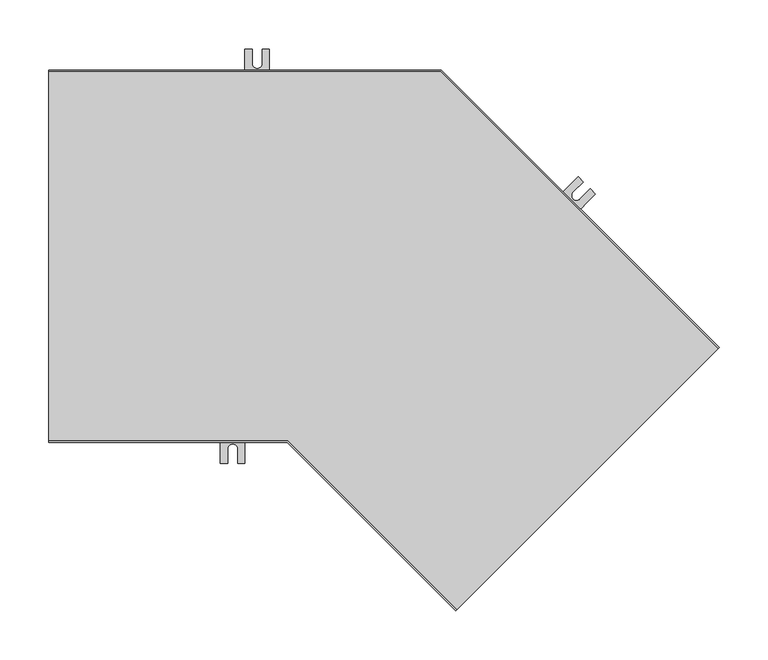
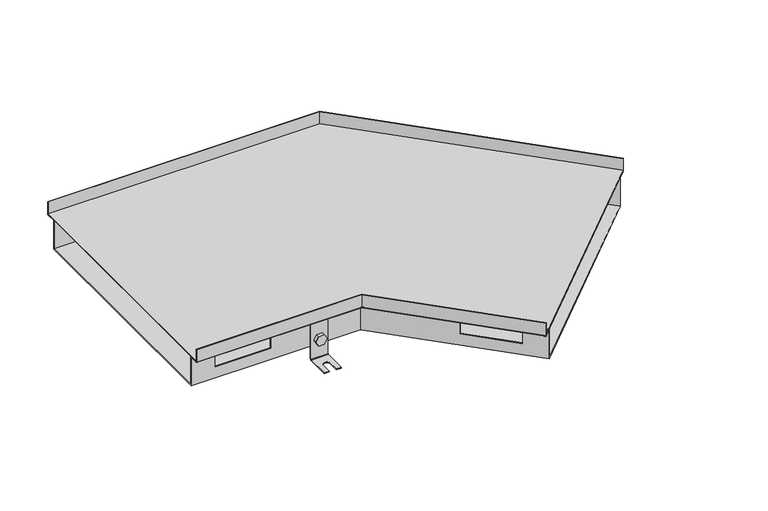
"""IFC4 building model written with IfcOpenShell, lengths in millimetres: proxy geometry, TECHNO_Угловой элемент_KVU : 380_065_135°."""

import ifcopenshell
import ifcopenshell.guid

model = None  # the IFC model being written
_history = None  # IfcOwnerHistory: only IFC2X3 demands one
_inside = {}  # id of a spatial element -> (the spatial element, [elements in it])
_under = {}  # id of a project, library or spatial element -> (it, [spatial elements below it])
_declared = {}  # id of a project -> (the project, [libraries it declares])
_typed = {}  # id of a type object -> (the type object, [elements of that type])
_made_of = {}  # id of a material, layer set ... -> (it, [elements and type objects made of it])


def new_model(schema):
    """Start an empty IFC model of exactly this schema.

    Asked for "IFC4X3", IfcOpenShell would pick the latest addendum, in which some entities
    have other attributes; the version numbers below select the first issue.
    IFC2X3 requires an IfcOwnerHistory on every rooted entity: one is made here for all.
    """
    global model, _history
    if schema == "IFC4X3":
        model = ifcopenshell.file(schema_version=(4, 3, 0, 0))
    else:
        model = ifcopenshell.file(schema=schema)
    _inside.clear()
    _under.clear()
    _declared.clear()
    _typed.clear()
    _made_of.clear()
    _history = None
    if model.schema == "IFC2X3":
        org = make("IfcOrganization", Name="unknown")
        user = make(
            "IfcPersonAndOrganization",
            ThePerson=make("IfcPerson", FamilyName="unknown"),
            TheOrganization=org,
        )
        app = make(
            "IfcApplication",
            ApplicationDeveloper=org,
            Version="unknown",
            ApplicationFullName="unknown",
            ApplicationIdentifier="unknown",
        )
        _history = make(
            "IfcOwnerHistory",
            OwningUser=user,
            OwningApplication=app,
            ChangeAction="ADDED",
            CreationDate=0,
        )
    return model


def make(cls, **values):
    """One entity of the class cls with the attributes given. An attribute that is None is left unset."""
    return model.create_entity(
        cls, **{name: value for name, value in values.items() if value is not None}
    )


def rooted(cls, **values):
    """An entity with a GlobalId (a new one), such as an element, a storey or a relation."""
    return make(cls, GlobalId=ifcopenshell.guid.new(), OwnerHistory=_history, **values)


def si_unit(unit_type, name, prefix=None):
    """IfcSIUnit, for example si_unit("LENGTHUNIT", "METRE", prefix="MILLI")."""
    return make("IfcSIUnit", UnitType=unit_type, Prefix=prefix, Name=name)


def assignment(units):
    """IfcUnitAssignment: the units of a project."""
    return None if units is None else make("IfcUnitAssignment", Units=units)


def point(xyz):
    """IfcCartesianPoint."""
    return None if xyz is None else make("IfcCartesianPoint", Coordinates=xyz)


def direction(xyz):
    """IfcDirection."""
    return None if xyz is None else make("IfcDirection", DirectionRatios=xyz)


def frame(location, z_axis=None, x_axis=None):
    """IfcAxis2Placement3D, a coordinate frame: its origin and axes. An axis left out is left unset."""
    return make(
        "IfcAxis2Placement3D",
        Location=point(location),
        Axis=direction(z_axis),
        RefDirection=direction(x_axis),
    )


def frame_2d(location, x_axis=None):
    """IfcAxis2Placement2D, a coordinate frame in the plane: its origin and x axis."""
    return make(
        "IfcAxis2Placement2D", Location=point(location), RefDirection=direction(x_axis)
    )


def origin():
    """The frame at (0, 0, 0) with its axes left unset."""
    return frame((0.0, 0.0, 0.0))


def place(relative_to, where):
    """IfcLocalPlacement: puts the frame where relative to a parent placement (None: the world)."""
    return make(
        "IfcLocalPlacement", PlacementRelTo=relative_to, RelativePlacement=where
    )


def context(
    kind, dimensions, precision=None, world=None, true_north=None, identifier=None
):
    """IfcGeometricRepresentationContext, for example the 3D "Model" context."""
    return make(
        "IfcGeometricRepresentationContext",
        ContextIdentifier=identifier,
        ContextType=kind,
        CoordinateSpaceDimension=dimensions,
        Precision=precision,
        WorldCoordinateSystem=world,
        TrueNorth=true_north,
    )


def project(units=None, contexts=None):
    """IfcProject with its units and contexts."""
    return rooted(
        "IfcProject",
        Name="project",
        RepresentationContexts=contexts,
        UnitsInContext=assignment(units),
    )


def spatial(cls, under=None, at=None, **own):
    """A site, building, storey or space (cls), placed at a placement, below another one or the project."""
    s = rooted(cls, ObjectPlacement=at, **own)
    if under is not None:
        _under.setdefault(under.id(), (under, []))[1].append(s)
    return s


def polyline(points):
    """IfcPolyline through the points."""
    return make("IfcPolyline", Points=[point(p) for p in points])


def circle_curve(where, radius):
    """IfcCircle in the frame where."""
    return make("IfcCircle", Position=where, Radius=radius)


def ellipse_curve(where, semi_axis1, semi_axis2):
    """IfcEllipse in the frame where."""
    return make(
        "IfcEllipse", Position=where, SemiAxis1=semi_axis1, SemiAxis2=semi_axis2
    )


def trimmed(basis, trim1, trim2, sense, master):
    """IfcTrimmedCurve: the piece of a basis curve between two trims."""
    return make(
        "IfcTrimmedCurve",
        BasisCurve=basis,
        Trim1=trim1,
        Trim2=trim2,
        SenseAgreement=sense,
        MasterRepresentation=master,
    )


def segment(curve, same_sense, transition):
    """IfcCompositeCurveSegment."""
    return make(
        "IfcCompositeCurveSegment",
        Transition=transition,
        SameSense=same_sense,
        ParentCurve=curve,
    )


def composite_curve(segments, self_intersect=None):
    """IfcCompositeCurve: segments joined end to end."""
    return make("IfcCompositeCurve", Segments=segments, SelfIntersect=self_intersect)


def outline(outer, holes=None, kind="AREA"):
    """IfcArbitraryClosedProfileDef: a profile drawn as a closed curve; with holes, ...WithVoids."""
    if holes is None:
        return make("IfcArbitraryClosedProfileDef", ProfileType=kind, OuterCurve=outer)
    return make(
        "IfcArbitraryProfileDefWithVoids",
        ProfileType=kind,
        OuterCurve=outer,
        InnerCurves=holes,
    )


def extrude(swept, where, along, depth):
    """IfcExtrudedAreaSolid: the profile swept, set in the frame where, extruded along a direction by depth."""
    return make(
        "IfcExtrudedAreaSolid",
        SweptArea=swept,
        Position=where,
        ExtrudedDirection=direction(along),
        Depth=depth,
    )


def shape(context_of_items, identifier, shape_type, items):
    """IfcShapeRepresentation: the items that make up one representation, for example the "Body"."""
    return make(
        "IfcShapeRepresentation",
        ContextOfItems=context_of_items,
        RepresentationIdentifier=identifier,
        RepresentationType=shape_type,
        Items=items,
    )


def source(mapping_origin, context_of_items, identifier, shape_type, items):
    """IfcRepresentationMap: a shape defined once, which mapped items show again and again."""
    return make(
        "IfcRepresentationMap",
        MappingOrigin=mapping_origin,
        MappedRepresentation=shape(context_of_items, identifier, shape_type, items),
    )


def transform(
    local_origin,
    x_axis=None,
    y_axis=None,
    z_axis=None,
    scale=None,
    scale2=None,
    scale3=None,
    uniform=True,
):
    """IfcCartesianTransformationOperator3D, or its non-uniform kind. x_axis, y_axis, z_axis: its Axis1, 2, 3."""
    if uniform:
        return make(
            "IfcCartesianTransformationOperator3D",
            Axis1=direction(x_axis),
            Axis2=direction(y_axis),
            LocalOrigin=point(local_origin),
            Scale=scale,
            Axis3=direction(z_axis),
        )
    return make(
        "IfcCartesianTransformationOperator3DnonUniform",
        Axis1=direction(x_axis),
        Axis2=direction(y_axis),
        LocalOrigin=point(local_origin),
        Scale=scale,
        Axis3=direction(z_axis),
        Scale2=scale2,
        Scale3=scale3,
    )


def mapped(mapping_source, mapping_target):
    """IfcMappedItem: shows the shape of a source again, moved by a transform."""
    return make(
        "IfcMappedItem", MappingSource=mapping_source, MappingTarget=mapping_target
    )


def made_of(thing, what):
    """Note that an element or type object is made of a material, layer set ...; save() writes the relation."""
    if what is not None:
        _made_of.setdefault(what.id(), (what, []))[1].append(thing)
    return thing


def element(
    cls,
    number,
    at=None,
    inside=None,
    cuts=None,
    type_object=None,
    material=None,
    context=None,
    identifier="Body",
    shape_type=None,
    held_by="IfcProductDefinitionShape",
    body=None,
    shapes=None,
    **own,
):
    """One element of the class cls, such as IfcWall. Its Tag is "e" and its number.

    at: its placement. inside: the storey or other place that contains it. cuts: it is an
    opening in that element (IfcRelVoidsElement). A single representation is given by context,
    identifier, shape_type and body (its items); several are given by shapes. held_by: the class
    of the entity that holds the representations. save() writes the other relations.
    """
    e = rooted(cls, Tag="e%d" % number, ObjectPlacement=at, **own)
    if body is not None:
        shapes = [shape(context, identifier, shape_type, body)]
    if shapes is not None:
        e.Representation = make(held_by, Representations=shapes)
    if inside is not None:
        _inside.setdefault(inside.id(), (inside, []))[1].append(e)
    if cuts is not None:
        rooted(
            "IfcRelVoidsElement", RelatingBuildingElement=cuts, RelatedOpeningElement=e
        )
    if type_object is not None:
        _typed.setdefault(type_object.id(), (type_object, []))[1].append(e)
    return made_of(e, material)


def aggregate(whole, parts):
    """IfcRelAggregates: a whole, such as a stair, and the parts it consists of."""
    return rooted("IfcRelAggregates", RelatingObject=whole, RelatedObjects=parts)


def save(model, path):
    """Write the relations noted so far, then the file.

    IfcRelAggregates (storeys below a building ...), IfcRelContainedInSpatialStructure (elements
    in a storey), IfcRelDefinesByType, IfcRelAssociatesMaterial and IfcRelDeclares: one each for
    every whole, place, type object, material and project.
    """
    for whole, parts in _under.values():
        aggregate(whole, parts)
    for where, things in _inside.values():
        rooted(
            "IfcRelContainedInSpatialStructure",
            RelatedElements=things,
            RelatingStructure=where,
        )
    for kind, things in _typed.values():
        rooted("IfcRelDefinesByType", RelatedObjects=things, RelatingType=kind)
    for what, things in _made_of.values():
        rooted("IfcRelAssociatesMaterial", RelatedObjects=things, RelatingMaterial=what)
    for by, libraries in _declared.values():
        rooted("IfcRelDeclares", RelatingContext=by, RelatedDefinitions=libraries)
    model.write(path)


def plane_surface(at):
    """IfcPlane: the flat surface through the origin of the frame at, square to its z axis."""
    return make("IfcPlane", Position=at)


def cylinder_surface(at, radius):
    """IfcCylindricalSurface: all points at the distance radius from the z axis of the frame at."""
    return make("IfcCylindricalSurface", Position=at, Radius=radius)


def revolved_surface(curve, axis_point, axis_direction):
    """IfcSurfaceOfRevolution: the curve turned about the line through axis_point along axis_direction."""
    return make(
        "IfcSurfaceOfRevolution",
        SweptCurve=make("IfcArbitraryOpenProfileDef", ProfileType="CURVE", Curve=curve),
        AxisPosition=make("IfcAxis1Placement", Location=point(axis_point), Axis=direction(axis_direction)),
    )


def advanced_brep(points, edges, surfaces, faces):
    """IfcAdvancedBrep: a solid bounded by faces that lie on surfaces and meet in shared edges.

    An edge is (start, end): straight between two places in points (the first is 0);
    or (start, end, curve); or (start, end, curve, False) where it runs against its curve.
    A face is (place in surfaces, loops), or (place, loops, False) where it looks against
    its surface's normal. A loop lists edges by number (the first is 1), with a minus sign
    where the edge is run from its end to its start. The first loop is the outer one.
    """
    corners = [point(p) for p in points]
    vertices = [make("IfcVertexPoint", VertexGeometry=c) for c in corners]
    made = []
    for start, end, *more in edges:
        made.append(
            make(
                "IfcEdgeCurve",
                EdgeStart=vertices[start],
                EdgeEnd=vertices[end],
                EdgeGeometry=more[0] if more else make("IfcPolyline", Points=[corners[start], corners[end]]),
                SameSense=more[1] if len(more) > 1 else True,
            )
        )
    hull = []
    for where, loops, *sense in faces:
        bounds = []
        for j, loop in enumerate(loops):
            ring = [make("IfcOrientedEdge", EdgeElement=made[abs(k) - 1], Orientation=k > 0) for k in loop]
            bounds.append(
                make(
                    "IfcFaceOuterBound" if j == 0 else "IfcFaceBound",
                    Bound=make("IfcEdgeLoop", EdgeList=ring),
                    Orientation=True,
                )
            )
        hull.append(make("IfcAdvancedFace", Bounds=bounds, FaceSurface=surfaces[where], SameSense=sense[0] if sense else True))
    return make("IfcAdvancedBrep", Outer=make("IfcClosedShell", CfsFaces=hull))


def mechanical_equipment_b99a253c(model_context):
    return source(origin(), model_context, "Body", "SolidModel", [
        extrude(outline(composite_curve([segment(trimmed(circle_curve(frame_2d((0.0, -7.5)), 7.5), [point((0.0, -15.0))], [point((0.0, 0.0))], False, "CARTESIAN"), True, "CONTINUOUS"), segment(trimmed(circle_curve(frame_2d((0.0, -7.5)), 7.5), [point((0.0, 0.0))], [point((0.0, -15.0))], False, "CARTESIAN"), True, "CONTINUOUS")], self_intersect=False)), frame((482.1001225, -40.233968, -55.5), z_axis=(0.7071067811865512, 0.7071067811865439, 0.0), x_axis=(0.0, 0.0, 1.0)), (0.0, 0.0, 1.0), 1.5),
        extrude(outline(polyline([(0.0, 0.0), (8.660254, 0.0), (12.990381, -7.5), (8.660254, -15.0), (0.0, -15.0), (-4.330127, -7.5), (0.0, 0.0)])), frame((466.2183246, -33.2617155, -55.5), z_axis=(0.7071067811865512, 0.7071067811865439, 0.0), x_axis=(0.35355339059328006, -0.3535533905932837, -0.866025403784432)), (0.0, 0.0, 1.0), 5.1),
        advanced_brep(
        [(484.7871283, -44.61803, -20.5), (484.7871283, -44.61803, -83.5), (484.2214429, -45.1837154, -84.3), (460.8869191, -68.5182392, -84.3), (460.8869191, -68.5182392, -85.5), (484.2214429, -45.1837154, -85.5), (485.6356565, -43.7695019, -83.5), (485.6356565, -43.7695019, -20.5), (467.1094588, -26.9403605, -20.5), (467.9579869, -26.0918323, -20.5), (467.9579869, -26.0918323, -83.5), (466.5437734, -27.5060459, -85.5), (443.2092496, -50.8405697, -85.5), (443.2092496, -50.8405697, -84.3), (466.5437734, -27.5060459, -84.3), (467.1094588, -26.9403605, -83.5), (448.5125504, -56.1438705, -84.3), (459.1191522, -45.5372688, -84.3), (466.19022, -52.6083366, -84.3), (455.5836183, -63.2149383, -84.3), (455.5836183, -63.2149383, -85.5), (448.5125504, -56.1438705, -85.5), (466.19022, -52.6083366, -85.5), (459.1191522, -45.5372688, -85.5)],
        [
            (0, 1),
            (1, 2, circle_curve(frame((484.2214429, -45.1837154, -83.5), z_axis=(-0.7071067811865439, 0.7071067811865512, 0.0), x_axis=(-0.7071067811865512, -0.7071067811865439, 0.0)), 0.8)),
            (2, 3),
            (3, 4),
            (4, 5),
            (5, 6, circle_curve(frame((484.2214429, -45.1837154, -83.5), z_axis=(0.7071067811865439, -0.7071067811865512, 0.0), x_axis=(-0.7071067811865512, -0.7071067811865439, 0.0)), 2.0)),
            (6, 7),
            (7, 0),
            (8, 9),
            (9, 10),
            (10, 11, circle_curve(frame((466.5437734, -27.5060459, -83.5), z_axis=(-0.7071067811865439, 0.7071067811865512, 0.0), x_axis=(-0.7071067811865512, -0.7071067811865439, 0.0)), 2.0)),
            (11, 12),
            (12, 13),
            (13, 14),
            (14, 15, circle_curve(frame((466.5437734, -27.5060459, -83.5), z_axis=(0.7071067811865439, -0.7071067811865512, 0.0), x_axis=(-0.7071067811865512, -0.7071067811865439, 0.0)), 0.8)),
            (15, 8),
            (0, 8),
            (15, 1),
            (14, 2),
            (13, 16),
            (16, 17),
            (17, 18, circle_curve(frame((462.6546861, -49.0728027, -84.3), z_axis=(0.0, 0.0, -1.0), x_axis=(0.7071067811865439, -0.7071067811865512, 0.0)), 5.0)),
            (18, 19),
            (19, 3),
            (19, 20),
            (20, 4),
            (12, 21),
            (21, 16),
            (20, 22),
            (22, 23, circle_curve(frame((462.6546861, -49.0728027, -85.5), z_axis=(0.0, 0.0, 1.0), x_axis=(0.7071067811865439, -0.7071067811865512, 0.0)), 5.0)),
            (23, 21),
            (11, 5),
            (10, 6),
            (9, 7),
            (23, 17),
            (18, 22),
        ],
        [
            plane_surface(frame((484.7871283, -44.61803, -20.5), z_axis=(0.7071067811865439, -0.7071067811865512, 0.0), x_axis=(0.0, 0.0, -1.0))),
            plane_surface(frame((467.1094588, -26.9403605, -20.5), z_axis=(-0.7071067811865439, 0.7071067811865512, 0.0), x_axis=(0.0, 0.0, 1.0))),
            plane_surface(frame((484.7871283, -44.61803, -20.5), z_axis=(-0.7071067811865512, -0.7071067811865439, 0.0), x_axis=(-0.7071067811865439, 0.7071067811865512, 0.0))),
            revolved_surface(polyline([(465.97808797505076, -28.071731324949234, -83.5), (483.6557574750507, -45.74940082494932, -83.5)]), (466.5437734, -27.5060459, -83.5), (-0.7071067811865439, 0.7071067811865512, 0.0)),
            plane_surface(frame((484.2214429, -45.1837154, -84.3), z_axis=(0.0, 0.0, 1.0), x_axis=(-0.7071067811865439, 0.7071067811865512, 0.0))),
            plane_surface(frame((460.8869191, -68.5182392, -84.3), z_axis=(-0.7071067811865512, -0.7071067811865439, 0.0), x_axis=(-0.7071067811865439, 0.7071067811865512, 0.0))),
            plane_surface(frame((460.8869191, -68.5182392, -85.5), z_axis=(0.0, 0.0, -1.0), x_axis=(-0.7071067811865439, 0.7071067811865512, 0.0))),
            cylinder_surface(frame((466.5437734, -27.5060459, -83.5), z_axis=(0.7071067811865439, -0.7071067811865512, 0.0), x_axis=(-0.7071067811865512, -0.7071067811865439, 0.0)), 2.0),
            plane_surface(frame((485.6356565, -43.7695019, -83.5), z_axis=(0.7071067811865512, 0.7071067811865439, 0.0), x_axis=(-0.7071067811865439, 0.7071067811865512, 0.0))),
            plane_surface(frame((485.6356565, -43.7695019, -20.5), z_axis=(0.0, 0.0, 1.0), x_axis=(-0.7071067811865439, 0.7071067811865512, 0.0))),
            plane_surface(frame((459.1191522, -45.5372688, -84.3), z_axis=(0.7071067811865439, -0.7071067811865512, 0.0), x_axis=(0.0, 0.0, -1.0))),
            plane_surface(frame((455.5836183, -63.2149383, -84.3), z_axis=(-0.707106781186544, 0.7071067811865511, 0.0), x_axis=(0.0, 0.0, -1.0))),
            revolved_surface(polyline([(466.1902200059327, -52.608336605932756, -84.3), (466.1902200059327, -52.608336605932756, -85.5)]), (462.6546861, -49.0728027, -85.5), (0.0, 0.0, 1.0)),
        ],
        [
            (0, [[1, 2, 3, 4, 5, 6, 7, 8]]),
            (1, [[9, 10, 11, 12, 13, 14, 15, 16]]),
            (2, [[-1, 17, -16, 18]]),
            (3, [[-2, -18, -15, 19]]),
            (4, [[-3, -19, -14, 20, 21, 22, 23, 24]]),
            (5, [[-4, -24, 25, 26]]),
            (5, [[-13, 27, 28, -20]]),
            (6, [[-5, -26, 29, 30, 31, -27, -12, 32]]),
            (7, [[-6, -32, -11, 33]]),
            (8, [[-7, -33, -10, 34]]),
            (9, [[-8, -34, -9, -17]]),
            (10, [[35, -21, -28, -31]]),
            (11, [[36, -29, -25, -23]]),
            (12, [[-35, -30, -36, -22]]),
        ],
    ),
        extrude(outline(composite_curve([segment(trimmed(circle_curve(frame_2d((0.0, -7.5)), 7.5), [point((0.0, -15.0))], [point((0.0, 0.0))], False, "CARTESIAN"), True, "CONTINUOUS"), segment(trimmed(circle_curve(frame_2d((0.0, -7.5)), 7.5), [point((0.0, 0.0))], [point((0.0, -15.0))], False, "CARTESIAN"), True, "CONTINUOUS")], self_intersect=False)), frame((517.6675936, 51.9020456, -55.5), z_axis=(0.7071067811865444, 0.7071067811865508, 0.0), x_axis=(0.0, 0.0, -1.0)), (0.0, 0.0, 1.0), 1.5),
        extrude(outline(polyline([(0.0, 0.0), (4.330127, -7.5), (0.0, -15.0000001), (-8.660254, -15.0), (-12.9903811, -7.5000001), (-8.6602541, 0.0), (0.0, 0.0)])), frame((531.0038072, 42.3842087, -55.5), z_axis=(0.7071067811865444, 0.7071067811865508, 0.0), x_axis=(0.3535533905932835, -0.3535533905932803, 0.866025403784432)), (0.0, 0.0, 1.0), 5.1),
        advanced_brep(
        [(516.041248, 57.3467678, -20.5), (516.041248, 57.3467678, -83.5), (516.6069335, 57.9124533, -84.3), (539.9414572, 81.2469771, -84.3), (539.9414572, 81.2469771, -85.5), (516.6069335, 57.9124533, -85.5), (515.1927199, 56.4982397, -83.5), (515.1927199, 56.4982397, -20.5), (533.7189176, 39.6690983, -20.5), (532.8703894, 38.8205702, -20.5), (532.8703894, 38.8205702, -83.5), (534.284603, 40.2347837, -85.5), (557.6191268, 63.5693075, -85.5), (557.6191268, 63.5693075, -84.3), (534.284603, 40.2347837, -84.3), (533.7189176, 39.6690983, -83.5), (552.3158259, 68.8726084, -84.3), (541.7092242, 58.2660067, -84.3), (534.6381564, 65.3370745, -84.3), (545.2447581, 75.9436762, -84.3), (545.2447581, 75.9436762, -85.5), (552.3158259, 68.8726084, -85.5), (534.6381564, 65.3370745, -85.5), (541.7092242, 58.2660067, -85.5)],
        [
            (0, 1),
            (1, 2, circle_curve(frame((516.6069335, 57.9124533, -83.5), z_axis=(0.7071067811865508, -0.7071067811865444, 0.0), x_axis=(0.7071067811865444, 0.7071067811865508, 0.0)), 0.8)),
            (2, 3),
            (3, 4),
            (4, 5),
            (5, 6, circle_curve(frame((516.6069335, 57.9124533, -83.5), z_axis=(-0.7071067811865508, 0.7071067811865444, 0.0), x_axis=(0.7071067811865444, 0.7071067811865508, 0.0)), 2.0)),
            (6, 7),
            (7, 0),
            (8, 9),
            (9, 10),
            (10, 11, circle_curve(frame((534.284603, 40.2347837, -83.5), z_axis=(0.7071067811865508, -0.7071067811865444, 0.0), x_axis=(0.7071067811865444, 0.7071067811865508, 0.0)), 2.0)),
            (11, 12),
            (12, 13),
            (13, 14),
            (14, 15, circle_curve(frame((534.284603, 40.2347837, -83.5), z_axis=(-0.7071067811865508, 0.7071067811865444, 0.0), x_axis=(0.7071067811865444, 0.7071067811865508, 0.0)), 0.8)),
            (15, 8),
            (0, 8),
            (15, 1),
            (14, 2),
            (13, 16),
            (16, 17),
            (17, 18, circle_curve(frame((538.1736903, 61.8015406, -84.3), z_axis=(0.0, 0.0, -1.0), x_axis=(-0.7071067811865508, 0.7071067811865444, 0.0)), 5.0)),
            (18, 19),
            (19, 3),
            (19, 20),
            (20, 4),
            (12, 21),
            (21, 16),
            (20, 22),
            (22, 23, circle_curve(frame((538.1736903, 61.8015406, -85.5), z_axis=(0.0, 0.0, 1.0), x_axis=(-0.7071067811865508, 0.7071067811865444, 0.0)), 5.0)),
            (23, 21),
            (11, 5),
            (10, 6),
            (9, 7),
            (23, 17),
            (18, 22),
        ],
        [
            plane_surface(frame((516.041248, 57.3467678, -20.5), z_axis=(-0.7071067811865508, 0.7071067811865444, 0.0), x_axis=(0.0, 0.0, -1.0))),
            plane_surface(frame((533.7189176, 39.6690983, -20.5), z_axis=(0.7071067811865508, -0.7071067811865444, 0.0), x_axis=(0.0, 0.0, 1.0))),
            plane_surface(frame((516.041248, 57.3467678, -20.5), z_axis=(0.7071067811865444, 0.7071067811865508, 0.0), x_axis=(0.7071067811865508, -0.7071067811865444, 0.0))),
            revolved_surface(polyline([(534.8502884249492, 40.800469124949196, -83.5), (517.1726188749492, 58.47813867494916, -83.5)]), (534.284603, 40.2347837, -83.5), (0.7071067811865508, -0.7071067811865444, 0.0)),
            plane_surface(frame((516.6069335, 57.9124533, -84.3), z_axis=(0.0, 0.0, 1.0000000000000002), x_axis=(0.7071067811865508, -0.7071067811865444, 0.0))),
            plane_surface(frame((539.9414572, 81.2469771, -84.3), z_axis=(0.7071067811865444, 0.7071067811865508, 0.0), x_axis=(0.7071067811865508, -0.7071067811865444, 0.0))),
            plane_surface(frame((539.9414572, 81.2469771, -85.5), z_axis=(0.0, 0.0, -1.0000000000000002), x_axis=(0.7071067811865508, -0.7071067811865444, 0.0))),
            cylinder_surface(frame((534.284603, 40.2347837, -83.5), z_axis=(-0.7071067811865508, 0.7071067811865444, 0.0), x_axis=(0.7071067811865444, 0.7071067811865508, 0.0)), 2.0),
            plane_surface(frame((515.1927199, 56.4982397, -83.5), z_axis=(-0.7071067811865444, -0.7071067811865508, 0.0), x_axis=(0.7071067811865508, -0.7071067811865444, 0.0))),
            plane_surface(frame((515.1927199, 56.4982397, -20.5), z_axis=(0.0, 0.0, 1.0000000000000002), x_axis=(0.7071067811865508, -0.7071067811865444, 0.0))),
            plane_surface(frame((541.7092242, 58.2660067, -84.3), z_axis=(-0.7071067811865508, 0.7071067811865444, 0.0), x_axis=(0.0, 0.0, -1.0))),
            plane_surface(frame((545.2447581, 75.9436762, -84.3), z_axis=(0.7071067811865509, -0.7071067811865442, 0.0), x_axis=(0.0, 0.0, -1.0))),
            revolved_surface(polyline([(534.6381563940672, 65.33707450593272, -84.3), (534.6381563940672, 65.33707450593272, -85.5)]), (538.1736903, 61.8015406, -85.5), (0.0, 0.0, 1.0)),
        ],
        [
            (0, [[1, 2, 3, 4, 5, 6, 7, 8]]),
            (1, [[9, 10, 11, 12, 13, 14, 15, 16]]),
            (2, [[-1, 17, -16, 18]]),
            (3, [[-2, -18, -15, 19]]),
            (4, [[-3, -19, -14, 20, 21, 22, 23, 24]]),
            (5, [[-4, -24, 25, 26]]),
            (5, [[-13, 27, 28, -20]]),
            (6, [[-5, -26, 29, 30, 31, -27, -12, 32]]),
            (7, [[-6, -32, -11, 33]]),
            (8, [[-7, -33, -10, 34]]),
            (9, [[-8, -34, -9, -17]]),
            (10, [[35, -21, -28, -31]]),
            (11, [[36, -29, -25, -23]]),
            (12, [[-35, -30, -36, -22]]),
        ],
    ),
        extrude(outline(composite_curve([segment(trimmed(circle_curve(frame_2d((-55.5, 212.5)), 7.5), [point((-55.5, 205.0))], [point((-55.5, 220.0))], False, "CARTESIAN"), True, "CONTINUOUS"), segment(trimmed(circle_curve(frame_2d((-55.5, 212.5)), 7.5), [point((-55.5, 220.0))], [point((-55.5, 205.0))], False, "CARTESIAN"), True, "CONTINUOUS")], self_intersect=False)), frame((0.0, 175.2, 0.0), z_axis=(0.0, 1.0, 0.0), x_axis=(0.0, 0.0, 1.0)), (0.0, 0.0, 1.0), 1.5),
        extrude(outline(polyline([(-55.5, 203.839746), (-63.0, 208.169873), (-63.0, 216.830127), (-55.5, 221.160254), (-48.0, 216.830127), (-48.0, 208.169873), (-55.5, 203.839746)])), frame((0.0, 177.9, 0.0), z_axis=(0.0, 1.0, 0.0), x_axis=(0.0, 0.0, 1.0)), (0.0, 0.0, 1.0), 5.1),
        advanced_brep(
        [(225.0, 177.9, -20.5), (225.0, 176.7, -20.5), (225.0, 176.7, -83.5), (225.0, 178.7, -85.5), (225.0, 211.7, -85.5), (225.0, 211.7, -84.3), (225.0, 178.7, -84.3), (225.0, 177.9, -83.5), (200.0, 177.9, -20.5), (200.0, 177.9, -83.5), (200.0, 178.7, -84.3), (200.0, 211.7, -84.3), (200.0, 211.7, -85.5), (200.0, 178.7, -85.5), (200.0, 176.7, -83.5), (200.0, 176.7, -20.5), (217.5, 211.7, -84.3), (217.5, 196.7, -84.3), (207.5, 196.7, -84.3), (207.5, 211.7, -84.3), (207.5, 211.7, -85.5), (217.5, 211.7, -85.5), (207.5, 196.7, -85.5), (217.5, 196.7, -85.5)],
        [
            (0, 1),
            (1, 2),
            (2, 3, circle_curve(frame((225.0, 178.7, -83.5), z_axis=(1.0, 0.0, 0.0), x_axis=(0.0, 1.0, 0.0)), 2.0)),
            (3, 4),
            (4, 5),
            (5, 6),
            (6, 7, circle_curve(frame((225.0, 178.7, -83.5), z_axis=(-1.0, 0.0, 0.0), x_axis=(0.0, 1.0, 0.0)), 0.8)),
            (7, 0),
            (8, 9),
            (9, 10, circle_curve(frame((200.0, 178.7, -83.5), z_axis=(1.0, 0.0, 0.0), x_axis=(0.0, 1.0, 0.0)), 0.8)),
            (10, 11),
            (11, 12),
            (12, 13),
            (13, 14, circle_curve(frame((200.0, 178.7, -83.5), z_axis=(-1.0, 0.0, 0.0), x_axis=(0.0, 1.0, 0.0)), 2.0)),
            (14, 15),
            (15, 8),
            (7, 9),
            (8, 0),
            (6, 10),
            (5, 16),
            (16, 17),
            (17, 18, circle_curve(frame((212.5, 196.7, -84.3), z_axis=(0.0, 0.0, -1.0), x_axis=(1.0, 0.0, 0.0)), 5.0)),
            (18, 19),
            (19, 11),
            (19, 20),
            (20, 12),
            (4, 21),
            (21, 16),
            (3, 13),
            (20, 22),
            (22, 23, circle_curve(frame((212.5, 196.7, -85.5), z_axis=(0.0, 0.0, 1.0), x_axis=(1.0, 0.0, 0.0)), 5.0)),
            (23, 21),
            (2, 14),
            (1, 15),
            (18, 22),
            (23, 17),
        ],
        [
            plane_surface(frame((225.0, 177.9, -20.5), z_axis=(1.0, 0.0, 0.0), x_axis=(0.0, 0.0, -1.0))),
            plane_surface(frame((200.0, 177.9, -20.5), z_axis=(-1.0, 0.0, 0.0), x_axis=(0.0, 0.0, 1.0))),
            plane_surface(frame((225.0, 177.9, -20.5), z_axis=(0.0, 1.0, 0.0), x_axis=(-1.0, 0.0, 0.0))),
            revolved_surface(polyline([(200.0, 179.5, -83.5), (225.0, 179.5, -83.5)]), (200.0, 178.7, -83.5), (-1.0, 0.0, 0.0)),
            plane_surface(frame((225.0, 178.7, -84.3), z_axis=(0.0, 0.0, 1.0), x_axis=(-1.0, 0.0, 0.0))),
            plane_surface(frame((225.0, 211.7, -84.3), z_axis=(0.0, 1.0, 0.0), x_axis=(-1.0, 0.0, 0.0))),
            plane_surface(frame((225.0, 211.7, -85.5), z_axis=(0.0, 0.0, -1.0), x_axis=(-1.0, 0.0, 0.0))),
            cylinder_surface(frame((200.0, 178.7, -83.5), z_axis=(1.0, 0.0, 0.0), x_axis=(0.0, 1.0, 0.0)), 2.0),
            plane_surface(frame((225.0, 176.7, -83.5), z_axis=(0.0, -1.0, 0.0), x_axis=(-1.0, 0.0, 0.0))),
            plane_surface(frame((225.0, 176.7, -20.5), z_axis=(0.0, 0.0, 1.0), x_axis=(-1.0, 0.0, 0.0))),
            plane_surface(frame((207.5, 196.7, -84.3), z_axis=(1.0, 0.0, 0.0), x_axis=(0.0, 0.0, -1.0))),
            plane_surface(frame((217.5, 211.7, -84.3), z_axis=(-1.0, 0.0, 0.0), x_axis=(0.0, 0.0, -1.0))),
            revolved_surface(polyline([(217.5, 196.7, -84.3), (217.5, 196.7, -85.5)]), (212.5, 196.7, -85.5), (0.0, 0.0, 1.0)),
        ],
        [
            (0, [[1, 2, 3, 4, 5, 6, 7, 8]]),
            (1, [[9, 10, 11, 12, 13, 14, 15, 16]]),
            (2, [[17, -9, 18, -8]]),
            (3, [[19, -10, -17, -7]]),
            (4, [[20, 21, 22, 23, 24, -11, -19, -6]]),
            (5, [[-24, 25, 26, -12]]),
            (5, [[27, 28, -20, -5]]),
            (6, [[29, -13, -26, 30, 31, 32, -27, -4]]),
            (7, [[33, -14, -29, -3]]),
            (8, [[34, -15, -33, -2]]),
            (9, [[-18, -16, -34, -1]]),
            (10, [[-30, -25, -23, 35]]),
            (11, [[-21, -28, -32, 36]]),
            (12, [[-22, -36, -31, -35]]),
        ],
    ),
        extrude(outline(composite_curve([segment(trimmed(circle_curve(frame_2d((-55.5, 187.5)), 7.5), [point((-55.5, 180.0))], [point((-55.5, 195.0))], False, "CARTESIAN"), True, "CONTINUOUS"), segment(trimmed(circle_curve(frame_2d((-55.5, 187.5)), 7.5), [point((-55.5, 195.0))], [point((-55.5, 180.0))], False, "CARTESIAN"), True, "CONTINUOUS")], self_intersect=False)), frame((0.0, -176.7, 0.0), z_axis=(0.0, 1.0, 0.0), x_axis=(0.0, 0.0, 1.0)), (0.0, 0.0, 1.0), 1.5),
        extrude(outline(polyline([(-55.5, 178.839746), (-63.0, 183.169873), (-63.0, 191.830127), (-55.5, 196.160254), (-48.0, 191.830127), (-48.0, 183.169873), (-55.5, 178.839746)])), frame((0.0, -183.0, 0.0), z_axis=(0.0, 1.0, 0.0), x_axis=(0.0, 0.0, 1.0)), (0.0, 0.0, 1.0), 5.1),
        advanced_brep(
        [(200.0, -177.9, -20.5), (200.0, -177.9, -83.5), (200.0, -178.7, -84.3), (200.0, -211.7, -84.3), (200.0, -211.7, -85.5), (200.0, -178.7, -85.5), (200.0, -176.7, -83.5), (200.0, -176.7, -20.5), (175.0, -177.9, -20.5), (175.0, -176.7, -20.5), (175.0, -176.7, -83.5), (175.0, -178.7, -85.5), (175.0, -211.7, -85.5), (175.0, -211.7, -84.3), (175.0, -178.7, -84.3), (175.0, -177.9, -83.5), (182.5, -211.7, -84.3), (182.5, -196.7, -84.3), (192.5, -196.7, -84.3), (192.5, -211.7, -84.3), (192.5, -211.7, -85.5), (182.5, -211.7, -85.5), (192.5, -196.7, -85.5), (182.5, -196.7, -85.5)],
        [
            (0, 1),
            (1, 2, circle_curve(frame((200.0, -178.7, -83.5), z_axis=(-1.0, 0.0, 0.0), x_axis=(0.0, -1.0, 0.0)), 0.8)),
            (2, 3),
            (3, 4),
            (4, 5),
            (5, 6, circle_curve(frame((200.0, -178.7, -83.5), z_axis=(1.0, 0.0, 0.0), x_axis=(0.0, -1.0, 0.0)), 2.0)),
            (6, 7),
            (7, 0),
            (8, 9),
            (9, 10),
            (10, 11, circle_curve(frame((175.0, -178.7, -83.5), z_axis=(-1.0, 0.0, 0.0), x_axis=(0.0, -1.0, 0.0)), 2.0)),
            (11, 12),
            (12, 13),
            (13, 14),
            (14, 15, circle_curve(frame((175.0, -178.7, -83.5), z_axis=(1.0, 0.0, 0.0), x_axis=(0.0, -1.0, 0.0)), 0.8)),
            (15, 8),
            (0, 8),
            (15, 1),
            (14, 2),
            (13, 16),
            (16, 17),
            (17, 18, circle_curve(frame((187.5, -196.7, -84.3), z_axis=(0.0, 0.0, -1.0), x_axis=(1.0, 0.0, 0.0)), 5.0)),
            (18, 19),
            (19, 3),
            (19, 20),
            (20, 4),
            (12, 21),
            (21, 16),
            (20, 22),
            (22, 23, circle_curve(frame((187.5, -196.7, -85.5), z_axis=(0.0, 0.0, 1.0), x_axis=(1.0, 0.0, 0.0)), 5.0)),
            (23, 21),
            (11, 5),
            (10, 6),
            (9, 7),
            (23, 17),
            (18, 22),
        ],
        [
            plane_surface(frame((200.0, -177.9, -20.5), z_axis=(1.0, 0.0, 0.0), x_axis=(0.0, 0.0, -1.0))),
            plane_surface(frame((175.0, -177.9, -20.5), z_axis=(-1.0, 0.0, 0.0), x_axis=(0.0, 0.0, 1.0))),
            plane_surface(frame((200.0, -177.9, -20.5), z_axis=(0.0, -1.0, 0.0), x_axis=(-1.0, 0.0, 0.0))),
            revolved_surface(polyline([(175.0, -179.5, -83.5), (200.0, -179.5, -83.5)]), (175.0, -178.7, -83.5), (-1.0, 0.0, 0.0)),
            plane_surface(frame((200.0, -178.7, -84.3), z_axis=(0.0, 0.0, 1.0), x_axis=(-1.0, 0.0, 0.0))),
            plane_surface(frame((200.0, -211.7, -84.3), z_axis=(0.0, -1.0, 0.0), x_axis=(-1.0, 0.0, 0.0))),
            plane_surface(frame((200.0, -211.7, -85.5), z_axis=(0.0, 0.0, -1.0), x_axis=(-1.0, 0.0, 0.0))),
            cylinder_surface(frame((175.0, -178.7, -83.5), z_axis=(1.0, 0.0, 0.0), x_axis=(0.0, -1.0, 0.0)), 2.0),
            plane_surface(frame((200.0, -176.7, -83.5), z_axis=(0.0, 1.0, 0.0), x_axis=(-1.0, 0.0, 0.0))),
            plane_surface(frame((200.0, -176.7, -20.5), z_axis=(0.0, 0.0, 1.0), x_axis=(-1.0, 0.0, 0.0))),
            plane_surface(frame((182.5, -196.7, -84.3), z_axis=(1.0, 0.0, 0.0), x_axis=(0.0, 0.0, -1.0))),
            plane_surface(frame((192.5, -211.7, -84.3), z_axis=(-1.0, 0.0, 0.0), x_axis=(0.0, 0.0, -1.0))),
            revolved_surface(polyline([(192.5, -196.7, -84.3), (192.5, -196.7, -85.5)]), (187.5, -196.7, -85.5), (0.0, 0.0, 1.0)),
        ],
        [
            (0, [[1, 2, 3, 4, 5, 6, 7, 8]]),
            (1, [[9, 10, 11, 12, 13, 14, 15, 16]]),
            (2, [[-1, 17, -16, 18]]),
            (3, [[-2, -18, -15, 19]]),
            (4, [[-3, -19, -14, 20, 21, 22, 23, 24]]),
            (5, [[-4, -24, 25, 26]]),
            (5, [[-13, 27, 28, -20]]),
            (6, [[-5, -26, 29, 30, 31, -27, -12, 32]]),
            (7, [[-6, -32, -11, 33]]),
            (8, [[-7, -33, -10, 34]]),
            (9, [[-8, -34, -9, -17]]),
            (10, [[35, -21, -28, -31]]),
            (11, [[36, -29, -25, -23]]),
            (12, [[-35, -30, -36, -22]]),
        ],
    ),
        extrude(outline(polyline([(682.8477377, -94.044794), (415.8442172, -361.0483146), (243.5959026, -188.8), (0.0, -188.8), (0.0, 188.8), (400.0029437, 188.8), (682.8477377, -94.044794)])), frame((0.0, 0.0, -19.3), z_axis=(0.0, 0.0, 1.0), x_axis=(1.0, 0.0, 0.0)), (0.0, 0.0, 1.0), 1.2),
        advanced_brep(
        [(414.995689, -361.8968427, -19.3), (415.8442172, -361.0483146, -20.5), (425.4608694, -351.4316624, -20.5), (425.4608694, -351.4316624, -65.0), (673.2310855, -103.6614462, -65.0), (673.2310855, -103.6614462, -20.5), (682.8477377, -94.044794, -20.5), (683.6962659, -93.1962659, -19.3), (683.6962659, -93.1962659, 0.0), (682.8477377, -94.044794, 0.0), (682.8477377, -94.044794, -19.3), (673.2310855, -103.6614462, -19.3), (672.3825574, -104.5099744, -20.5), (672.3825574, -104.5099744, -63.8), (426.3093975, -350.5831342, -63.8), (426.3093975, -350.5831342, -20.5), (425.4608694, -351.4316624, -19.3), (415.8442172, -361.0483146, -19.3), (415.8442172, -361.0483146, 0.0), (414.995689, -361.8968427, 0.0), (0.0, -190.0, -19.3), (0.0, -190.0, 0.0), (0.0, -188.8, 0.0), (0.0, -188.8, -19.3), (0.0, -175.2, -19.3), (0.0, -174.0, -20.5), (0.0, -174.0, -63.8), (0.0, 174.0, -63.8), (0.0, 174.0, -20.5), (0.0, 175.2, -19.3), (0.0, 188.8, -19.3), (0.0, 188.8, 0.0), (0.0, 190.0, 0.0), (0.0, 190.0, -19.3), (0.0, 188.8, -20.5), (0.0, 175.2, -20.5), (0.0, 175.2, -65.0), (0.0, -175.2, -65.0), (0.0, -175.2, -20.5), (0.0, -188.8, -20.5), (243.5959026, -188.8, -20.5), (243.0988463, -190.0, -19.3), (243.5959026, -188.8, 0.0), (243.5959026, -188.8, -19.3), (249.229207, -175.2, -65.0), (249.229207, -175.2, -20.5), (35.5, -175.2, -23.0), (117.5, -175.2, -23.0), (117.5, -175.2, -48.0), (35.5, -175.2, -48.0), (249.7262633, -174.0, -20.5), (249.7262633, -174.0, -63.8), (117.5, -174.0, -23.0), (35.5, -174.0, -23.0), (35.5, -174.0, -48.0), (117.5, -174.0, -48.0), (249.229207, -175.2, -19.3), (342.3758226, -268.3466156, -23.0), (400.3585786, -326.3293716, -23.0), (400.3585786, -326.3293716, -48.0), (342.3758226, -268.3466156, -48.0), (394.3696393, 175.2, -65.0), (393.872583, 174.0, -63.8), (401.2071068, -325.4808435, -23.0), (343.2243507, -267.4980874, -23.0), (343.2243507, -267.4980874, -48.0), (401.2071068, -325.4808435, -48.0), (243.0988463, -190.0, 0.0), (394.3696393, 175.2, -20.5), (648.1287948, -78.5591555, -23.0), (590.1460387, -20.5763994, -23.0), (590.1460387, -20.5763994, -48.0), (648.1287948, -78.5591555, -48.0), (400.0029437, 188.8, -20.5), (400.5, 190.0, -19.3), (400.5, 190.0, 0.0), (400.0029437, 188.8, 0.0), (400.0029437, 188.8, -19.3), (394.3696393, 175.2, -19.3), (393.872583, 174.0, -20.5), (589.2975106, -21.4249276, -23.0), (647.2802666, -79.4076836, -23.0), (647.2802666, -79.4076836, -48.0), (589.2975106, -21.4249276, -48.0), (117.5, 175.2, -23.0), (35.5, 175.2, -23.0), (35.5, 175.2, -48.0), (117.5, 175.2, -48.0), (35.5, 174.0, -23.0), (117.5, 174.0, -23.0), (117.5, 174.0, -48.0), (35.5, 174.0, -48.0)],
        [
            (0, 1, circle_curve(frame((415.8442172, -361.0483146, -19.3), z_axis=(0.707106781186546, -0.707106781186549, 0.0), x_axis=(-0.707106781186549, -0.707106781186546, 0.0)), 1.2)),
            (1, 2),
            (2, 3),
            (3, 4),
            (4, 5),
            (5, 6),
            (6, 7, circle_curve(frame((682.8477377, -94.044794, -19.3), z_axis=(0.707106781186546, -0.707106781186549, 0.0), x_axis=(-0.707106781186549, -0.707106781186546, 0.0)), 1.2)),
            (7, 8),
            (8, 9),
            (9, 10),
            (10, 11),
            (11, 12, circle_curve(frame((673.2310855, -103.6614462, -20.5), z_axis=(0.707106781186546, -0.707106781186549, 0.0), x_axis=(-0.707106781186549, -0.707106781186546, 0.0)), 1.2)),
            (12, 13),
            (13, 14),
            (14, 15),
            (15, 16, circle_curve(frame((425.4608694, -351.4316624, -20.5), z_axis=(0.707106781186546, -0.707106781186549, 0.0), x_axis=(-0.707106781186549, -0.707106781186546, 0.0)), 1.2)),
            (16, 17),
            (17, 18),
            (18, 19),
            (19, 0),
            (20, 21),
            (21, 22),
            (22, 23),
            (23, 24),
            (24, 25, circle_curve(frame((0.0, -175.2, -20.5), z_axis=(-1.0, 0.0, 0.0), x_axis=(0.0, -1.0, 0.0)), 1.2)),
            (25, 26),
            (26, 27),
            (27, 28),
            (28, 29, circle_curve(frame((0.0, 175.2, -20.5), z_axis=(-1.0, 0.0, 0.0), x_axis=(0.0, -1.0, 0.0)), 1.2)),
            (29, 30),
            (30, 31),
            (31, 32),
            (32, 33),
            (33, 34, circle_curve(frame((0.0, 188.8, -19.3), z_axis=(-1.0, 0.0, 0.0), x_axis=(0.0, -1.0, 0.0)), 1.2)),
            (34, 35),
            (35, 36),
            (36, 37),
            (37, 38),
            (38, 39),
            (39, 20, circle_curve(frame((0.0, -188.8, -19.3), z_axis=(-1.0, 0.0, 0.0), x_axis=(0.0, -1.0, 0.0)), 1.2)),
            (39, 40),
            (40, 41, ellipse_curve(frame((243.5959026, -188.8, -19.3), z_axis=(-0.9238795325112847, 0.3826834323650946, 0.0), x_axis=(0.3826834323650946, 0.9238795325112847, 0.0)), 1.2988706, 1.2)),
            (41, 20),
            (22, 42),
            (42, 43),
            (43, 23),
            (37, 44),
            (44, 45),
            (45, 38),
            (46, 47),
            (47, 48),
            (48, 49),
            (49, 46),
            (25, 50),
            (50, 51),
            (51, 26),
            (52, 53),
            (53, 54),
            (54, 55),
            (55, 52),
            (24, 56),
            (56, 50, ellipse_curve(frame((249.229207, -175.2, -20.5), z_axis=(-0.9238795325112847, 0.3826834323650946, 0.0), x_axis=(0.3826834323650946, 0.9238795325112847, 0.0)), 1.2988706, 1.2)),
            (0, 41),
            (40, 1),
            (45, 2),
            (44, 3),
            (57, 58),
            (58, 59),
            (59, 60),
            (60, 57),
            (36, 61),
            (61, 4),
            (13, 62),
            (62, 27),
            (51, 14),
            (50, 15),
            (63, 64),
            (64, 65),
            (65, 66),
            (66, 63),
            (56, 16),
            (43, 17),
            (42, 18),
            (21, 67),
            (67, 19),
            (61, 68),
            (68, 5),
            (69, 70),
            (70, 71),
            (71, 72),
            (72, 69),
            (68, 35),
            (34, 73),
            (73, 6),
            (73, 74, ellipse_curve(frame((400.0029437, 188.8, -19.3), z_axis=(0.9238795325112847, -0.3826834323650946, 0.0), x_axis=(-0.38268343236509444, -0.9238795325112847, 0.0)), 1.2988706, 1.2)),
            (74, 7),
            (74, 75),
            (75, 8),
            (75, 32),
            (31, 76),
            (76, 9),
            (76, 77),
            (77, 10),
            (77, 30),
            (29, 78),
            (78, 11),
            (78, 79, ellipse_curve(frame((394.3696393, 175.2, -20.5), z_axis=(0.9238795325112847, -0.3826834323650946, 0.0), x_axis=(-0.38268343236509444, -0.9238795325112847, 0.0)), 1.2988706, 1.2)),
            (79, 12),
            (79, 62),
            (80, 81),
            (81, 82),
            (82, 83),
            (83, 80),
            (84, 85),
            (85, 86),
            (86, 87),
            (87, 84),
            (33, 74),
            (28, 79),
            (88, 89),
            (89, 90),
            (90, 91),
            (91, 88),
            (41, 67),
            (46, 53),
            (52, 47),
            (88, 85),
            (84, 89),
            (49, 54),
            (91, 86),
            (48, 55),
            (90, 87),
            (57, 64),
            (63, 58),
            (80, 70),
            (69, 81),
            (66, 59),
            (72, 82),
            (65, 60),
            (71, 83),
        ],
        [
            plane_surface(frame((549.3459774, -227.5465543, 0.0), z_axis=(0.707106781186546, -0.707106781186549, 0.0), x_axis=(0.0, 0.0, 1.0))),
            plane_surface(frame((0.0, 0.0, 0.0), z_axis=(-1.0, 0.0, 0.0), x_axis=(0.0, 0.0, 1.0))),
            cylinder_surface(frame((321.7994231, -188.8, -19.3), z_axis=(1.0, 0.0, 0.0), x_axis=(0.0, -1.0, 0.0)), 1.2),
            plane_surface(frame((243.5959026, -188.8, -19.3), z_axis=(0.0, 1.0, 0.0), x_axis=(-1.0, 0.0, 0.0))),
            plane_surface(frame((249.229207, -175.2, -20.5), z_axis=(0.0, -1.0, 0.0), x_axis=(-1.0, 0.0, 0.0))),
            plane_surface(frame((249.7262633, -174.0, -63.8), z_axis=(0.0, 1.0, 0.0), x_axis=(-1.0, 0.0, 0.0))),
            cylinder_surface(frame((321.7994231, -175.2, -20.5), z_axis=(1.0, 0.0, 0.0), x_axis=(0.0, -1.0, 0.0)), 1.2),
            cylinder_surface(frame((415.8442172, -361.0483146, -19.3), z_axis=(0.707106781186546, -0.707106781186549, 0.0), x_axis=(-0.707106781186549, -0.707106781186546, 0.0)), 1.2),
            plane_surface(frame((415.8442172, -361.0483146, -20.5), z_axis=(0.0, 0.0, -1.0), x_axis=(-0.7071067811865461, 0.7071067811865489, 0.0))),
            plane_surface(frame((425.4608694, -351.4316624, -20.5), z_axis=(-0.7071067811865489, -0.7071067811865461, 0.0), x_axis=(-0.7071067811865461, 0.7071067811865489, 0.0))),
            plane_surface(frame((425.4608694, -351.4316624, -65.0), z_axis=(0.0, 0.0, -1.0), x_axis=(-0.707106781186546, 0.7071067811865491, 0.0))),
            plane_surface(frame((672.3825574, -104.5099744, -63.8), z_axis=(0.0, 0.0, 1.0), x_axis=(-0.7071067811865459, 0.7071067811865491, 0.0))),
            plane_surface(frame((426.3093975, -350.5831342, -63.8), z_axis=(0.7071067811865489, 0.7071067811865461, 0.0), x_axis=(-0.7071067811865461, 0.7071067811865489, 0.0))),
            cylinder_surface(frame((425.4608694, -351.4316624, -20.5), z_axis=(0.707106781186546, -0.707106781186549, 0.0), x_axis=(-0.707106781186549, -0.707106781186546, 0.0)), 1.2),
            plane_surface(frame((425.4608694, -351.4316624, -19.3), z_axis=(0.0, 0.0, 1.0000000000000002), x_axis=(-0.7071067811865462, 0.7071067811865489, 0.0))),
            plane_surface(frame((415.8442172, -361.0483146, -19.3), z_axis=(0.707106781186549, 0.7071067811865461, 0.0), x_axis=(-0.7071067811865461, 0.707106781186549, 0.0))),
            plane_surface(frame((415.8442172, -361.0483146, 0.0), z_axis=(0.0, 0.0, 1.0), x_axis=(-0.7071067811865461, 0.707106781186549, 0.0))),
            plane_surface(frame((673.2310855, -103.6614462, -65.0), z_axis=(0.7071067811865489, 0.7071067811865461, 0.0), x_axis=(-0.7071067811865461, 0.7071067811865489, 0.0))),
            plane_surface(frame((673.2310855, -103.6614462, -20.5), z_axis=(0.0, 0.0, -1.0), x_axis=(-0.7071067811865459, 0.7071067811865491, 0.0))),
            cylinder_surface(frame((682.8477377, -94.044794, -19.3), z_axis=(0.707106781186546, -0.707106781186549, 0.0), x_axis=(-0.707106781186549, -0.707106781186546, 0.0)), 1.2),
            plane_surface(frame((683.6962659, -93.1962659, -19.3), z_axis=(0.707106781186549, 0.7071067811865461, 0.0), x_axis=(-0.7071067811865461, 0.707106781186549, 0.0))),
            plane_surface(frame((683.6962659, -93.1962659, 0.0), z_axis=(0.0, 0.0, 1.0), x_axis=(-0.7071067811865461, 0.707106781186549, 0.0))),
            plane_surface(frame((682.8477377, -94.044794, 0.0), z_axis=(-0.7071067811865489, -0.7071067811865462, 0.0), x_axis=(-0.7071067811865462, 0.7071067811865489, 0.0))),
            plane_surface(frame((682.8477377, -94.044794, -19.3), z_axis=(0.0, 0.0, 1.0), x_axis=(-0.7071067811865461, 0.707106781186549, 0.0))),
            cylinder_surface(frame((673.2310855, -103.6614462, -20.5), z_axis=(0.707106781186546, -0.707106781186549, 0.0), x_axis=(-0.707106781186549, -0.707106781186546, 0.0)), 1.2),
            plane_surface(frame((672.3825574, -104.5099744, -20.5), z_axis=(-0.7071067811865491, -0.7071067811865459, 0.0), x_axis=(-0.7071067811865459, 0.7071067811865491, 0.0))),
            plane_surface(frame((394.3696393, 175.2, -65.0), z_axis=(0.0, 1.0, 0.0), x_axis=(-1.0, 0.0, 0.0))),
            cylinder_surface(frame((321.7994231, 188.8, -19.3), z_axis=(1.0, 0.0, 0.0), x_axis=(0.0, -1.0, 0.0)), 1.2),
            plane_surface(frame((400.5, 190.0, -19.3), z_axis=(0.0, 1.0, 0.0), x_axis=(-1.0, 0.0, 0.0))),
            plane_surface(frame((400.0029437, 188.8, 0.0), z_axis=(0.0, -1.0, 0.0), x_axis=(-1.0, 0.0, 0.0))),
            cylinder_surface(frame((321.7994231, 175.2, -20.5), z_axis=(1.0, 0.0, 0.0), x_axis=(0.0, -1.0, 0.0)), 1.2),
            plane_surface(frame((393.872583, 174.0, -20.5), z_axis=(0.0, -1.0, 0.0), x_axis=(-1.0, 0.0, 0.0))),
            plane_surface(frame((243.0988463, -190.0, 0.0), z_axis=(0.0, -1.0, 0.0), x_axis=(-1.0, 0.0, 0.0))),
            plane_surface(frame((414.995689, -361.8968427, 0.0), z_axis=(-0.7071067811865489, -0.7071067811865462, 0.0), x_axis=(-0.7071067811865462, 0.7071067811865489, 0.0))),
            plane_surface(frame((35.5, 190.0, -23.0), z_axis=(0.0, 0.0, -1.0), x_axis=(0.0, -1.0, 0.0))),
            plane_surface(frame((35.5, 190.0, -48.0), z_axis=(1.0, 0.0, 0.0), x_axis=(0.0, -1.0, 0.0))),
            plane_surface(frame((117.5, 190.0, -48.0), z_axis=(0.0, 0.0, 1.0), x_axis=(0.0, -1.0, 0.0))),
            plane_surface(frame((117.5, 190.0, -23.0), z_axis=(-1.0, 0.0, 0.0), x_axis=(0.0, -1.0, 0.0))),
            plane_surface(frame((600.6112191, -10.1112191, -23.0), z_axis=(0.0, 0.0, -1.0), x_axis=(-0.7071067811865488, -0.7071067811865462, 0.0))),
            plane_surface(frame((658.5939751, -68.0939751, -23.0), z_axis=(-0.7071067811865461, 0.707106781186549, 0.0), x_axis=(-0.707106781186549, -0.7071067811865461, 0.0))),
            plane_surface(frame((658.5939751, -68.0939751, -48.0), z_axis=(0.0, 0.0, 1.0), x_axis=(-0.707106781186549, -0.7071067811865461, 0.0))),
            plane_surface(frame((600.6112191, -10.1112191, -48.0), z_axis=(0.7071067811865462, -0.7071067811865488, 0.0), x_axis=(-0.7071067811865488, -0.7071067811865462, 0.0))),
        ],
        [
            (0, [[1, 2, 3, 4, 5, 6, 7, 8, 9, 10, 11, 12, 13, 14, 15, 16, 17, 18, 19, 20]]),
            (1, [[21, 22, 23, 24, 25, 26, 27, 28, 29, 30, 31, 32, 33, 34, 35, 36, 37, 38, 39, 40]]),
            (2, [[-40, 41, 42, 43]]),
            (3, [[-23, 44, 45, 46]]),
            (4, [[-38, 47, 48, 49], [50, 51, 52, 53]]),
            (5, [[-26, 54, 55, 56], [57, 58, 59, 60]]),
            (6, [[-25, 61, 62, -54]]),
            (7, [[-1, 63, -42, 64]]),
            (8, [[-2, -64, -41, -39, -49, 65]]),
            (9, [[-3, -65, -48, 66], [67, 68, 69, 70]]),
            (10, [[-4, -66, -47, -37, 71, 72]]),
            (11, [[-14, 73, 74, -27, -56, 75]]),
            (12, [[-15, -75, -55, 76], [77, 78, 79, 80]]),
            (13, [[-16, -76, -62, 81]]),
            (14, [[-17, -81, -61, -24, -46, 82]]),
            (15, [[-18, -82, -45, 83]]),
            (16, [[-19, -83, -44, -22, 84, 85]]),
            (17, [[-5, -72, 86, 87], [88, 89, 90, 91]]),
            (18, [[-6, -87, 92, -35, 93, 94]]),
            (19, [[-7, -94, 95, 96]]),
            (20, [[-8, -96, 97, 98]]),
            (21, [[-9, -98, 99, -32, 100, 101]]),
            (22, [[-10, -101, 102, 103]]),
            (23, [[-11, -103, 104, -30, 105, 106]]),
            (24, [[-12, -106, 107, 108]]),
            (25, [[-13, -108, 109, -73], [110, 111, 112, 113]]),
            (26, [[-36, -92, -86, -71], [114, 115, 116, 117]]),
            (27, [[-34, 118, -95, -93]]),
            (28, [[-33, -99, -97, -118]]),
            (29, [[-31, -104, -102, -100]]),
            (30, [[-29, 119, -107, -105]]),
            (31, [[-28, -74, -109, -119], [120, 121, 122, 123]]),
            (32, [[-21, -43, 124, -84]]),
            (33, [[-20, -85, -124, -63]]),
            (34, [[125, -57, 126, -50]]),
            (34, [[127, -114, 128, -120]]),
            (35, [[-125, -53, 129, -58]]),
            (35, [[-127, -123, 130, -115]]),
            (36, [[-129, -52, 131, -59]]),
            (36, [[-130, -122, 132, -116]]),
            (37, [[-131, -51, -126, -60]]),
            (37, [[-132, -121, -128, -117]]),
            (38, [[133, -77, 134, -67]]),
            (38, [[135, -88, 136, -110]]),
            (39, [[-134, -80, 137, -68]]),
            (39, [[-136, -91, 138, -111]]),
            (40, [[-137, -79, 139, -69]]),
            (40, [[-138, -90, 140, -112]]),
            (41, [[-133, -70, -139, -78]]),
            (41, [[-135, -113, -140, -89]]),
        ],
    ),
    ])


if __name__ == "__main__":
    model = new_model("IFC4")
    model_context = context("Model", 3, world=origin())
    ifc_project = project(units=[si_unit("LENGTHUNIT", "METRE", prefix="MILLI")], contexts=[model_context])
    site = spatial("IfcSite", under=ifc_project)
    building = spatial("IfcBuilding", under=site)
    placement = place(None, origin())
    mechanical_equipment_shape = mechanical_equipment_b99a253c(model_context)
    element("IfcBuildingElementProxy", 1, Name="TECHNO_Угловой элемент_KVU : 380_065_135°", ObjectType="TECHNO_Угловой элемент_KVU : 380_065_135°", at=placement, inside=building, context=model_context, shape_type="MappedRepresentation", body=[
        mapped(mechanical_equipment_shape, transform((0.0, 0.0, 0.0), x_axis=(1.0, 0.0, 0.0), y_axis=(0.0, 1.0, 0.0), z_axis=(0.0, 0.0, 1.0))),
    ])
    save(model, "model.ifc")
